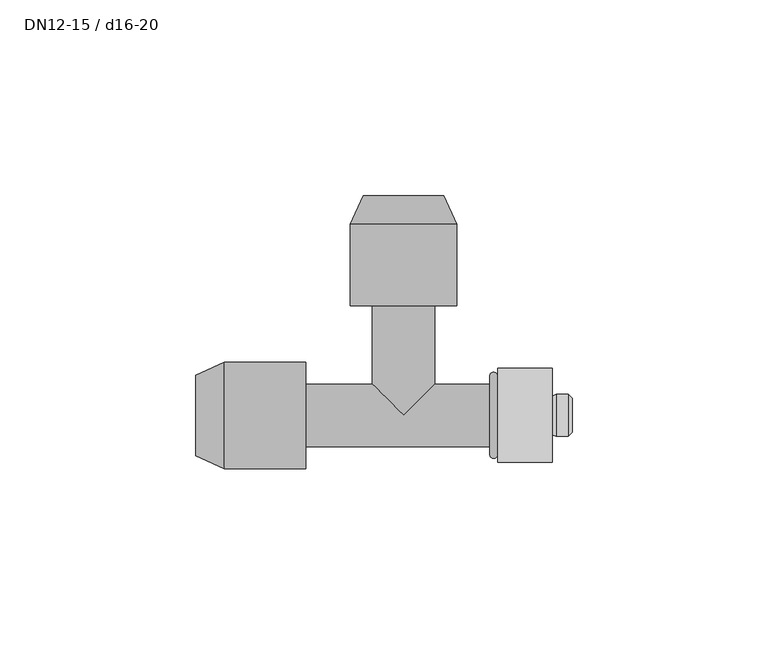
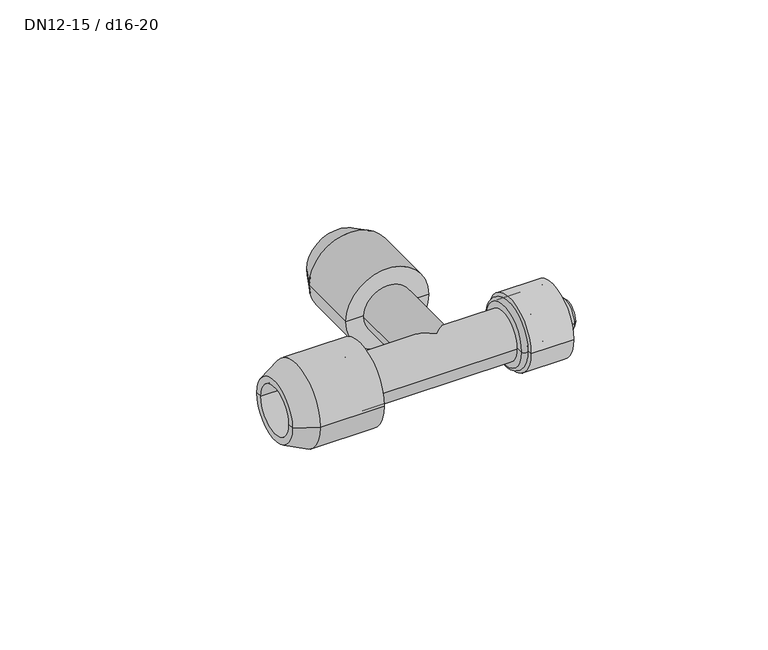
"""IFC4 building model written with IfcOpenShell, lengths in millimetres: pipe fitting geometry, NLRS_50_PIF_UN_PushFit overgangs-T-stuk met MasterFix, aftakking_geb : DN12-15 / d16-20."""

from ifc_helpers import new_model, si_unit, point, frame, origin, place, context, project, spatial, polyline, circle_curve, ellipse_curve, trimmed, source, transform, mapped, element, save
from ifc_brep_helpers import plane_surface, cylinder_surface, revolved_surface, advanced_brep


def dn12_15_d16_20_5e41d588(model_context):
    return source(origin(), model_context, "Body", "AdvancedBrep", [
        advanced_brep(
        [(-13.6, 28.0, 0.0), (13.6, 28.0, 0.0), (0.0, 28.0, 0.0), (-13.6, 48.8159018, 0.0), (13.6, 48.8159018, 0.0), (-10.25, 56.0, 0.0), (10.25, 56.0, 0.0), (-8.0, 30.0, 0.0), (8.0, 30.0, 0.0), (8.0, 56.0, 0.0), (-8.0, 56.0, 0.0), (0.0, 30.0, 0.0)],
        [
            (0, 1, circle_curve(frame((0.0, 28.0, 0.0), z_axis=(0.0, -1.0, 0.0), x_axis=(1.0000000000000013, 0.0, 0.0)), 13.6)),
            (1, 2),
            (2, 0),
            (1, 0, circle_curve(frame((0.0, 28.0, 0.0), z_axis=(0.0, -1.0, 0.0), x_axis=(1.0000000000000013, 0.0, 0.0)), 13.6)),
            (3, 4, circle_curve(frame((0.0, 48.8159018, 0.0), z_axis=(0.0, -1.0, 0.0), x_axis=(1.0000000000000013, 0.0, 0.0)), 13.6)),
            (4, 1),
            (0, 3),
            (4, 3, circle_curve(frame((0.0, 48.8159018, 0.0), z_axis=(0.0, -1.0, 0.0), x_axis=(1.0000000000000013, 0.0, 0.0)), 13.6)),
            (5, 6, circle_curve(frame((0.0, 56.0, 0.0), z_axis=(0.0, -1.0, 0.0), x_axis=(1.0000000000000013, 0.0, 0.0)), 10.25)),
            (6, 4),
            (3, 5),
            (6, 5, circle_curve(frame((0.0, 56.0, 0.0), z_axis=(0.0, -1.0, 0.0), x_axis=(1.0000000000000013, 0.0, 0.0)), 10.25)),
            (7, 8, circle_curve(frame((0.0, 30.0, 0.0), z_axis=(0.0, -1.0, 0.0), x_axis=(1.0000000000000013, 0.0, 0.0)), 8.0)),
            (8, 9),
            (9, 10, circle_curve(frame((0.0, 56.0, 0.0), z_axis=(0.0, 1.0, 0.0), x_axis=(1.0000000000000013, 0.0, 0.0)), 8.0)),
            (10, 7),
            (8, 7, circle_curve(frame((0.0, 30.0, 0.0), z_axis=(0.0, -1.0, 0.0), x_axis=(1.0000000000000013, 0.0, 0.0)), 8.0)),
            (10, 9, circle_curve(frame((0.0, 56.0, 0.0), z_axis=(0.0, 1.0, 0.0), x_axis=(1.0000000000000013, 0.0, 0.0)), 8.0)),
            (11, 8),
            (7, 11),
            (9, 6),
            (5, 10),
        ],
        [
            plane_surface(frame((0.0, 28.0, 0.0), z_axis=(0.0, -1.0, 0.0), x_axis=(1.0, 0.0, 0.0))),
            cylinder_surface(frame((0.0, 66.0, 0.0), z_axis=(0.0, 1.0000000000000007, 0.0), x_axis=(1.0000000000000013, 0.0, 0.0)), 13.6),
            revolved_surface(polyline([(13.6, 48.8159018, 0.0), (10.25, 56.0, 0.0)]), (0.0, 66.0, 0.0), (0.0, 1.0000000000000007, 0.0)),
            revolved_surface(polyline([(8.00000000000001, 55.999999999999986, 0.0), (8.00000000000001, 29.999999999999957, 0.0)]), (0.0, 66.0, 0.0), (0.0, 1.0000000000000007, 0.0)),
            plane_surface(frame((0.0, 30.0, 0.0), z_axis=(0.0, 1.0, 0.0), x_axis=(1.0, 0.0, 0.0))),
            plane_surface(frame((0.0, 56.0, 0.0), z_axis=(0.0, 1.0, 0.0), x_axis=(1.0, 0.0, 0.0))),
        ],
        [
            (0, [[1, 2, 3]]),
            (0, [[4, -3, -2]]),
            (1, [[5, 6, -1, 7]]),
            (1, [[8, -7, -4, -6]]),
            (2, [[9, 10, -5, 11]]),
            (2, [[12, -11, -8, -10]]),
            (3, [[13, 14, 15, 16]]),
            (3, [[17, -16, 18, -14]]),
            (4, [[19, -13, 20]]),
            (4, [[-20, -17, -19]]),
            (5, [[-15, 21, -9, 22]]),
            (5, [[-18, -22, -12, -21]]),
        ],
    ),
        advanced_brep(
        [(-25.0, -13.6, 0.0), (-25.0, 13.6, 0.0), (-25.0, 0.0, 0.0), (-45.8159018, -13.6, 0.0), (-45.8159018, 13.6, 0.0), (-53.0, -10.25, 0.0), (-53.0, 10.25, 0.0), (-27.0, -8.0, 0.0), (-27.0, 8.0, 0.0), (-53.0, 8.0, 0.0), (-53.0, -8.0, 0.0), (-27.0, 0.0, 0.0)],
        [
            (0, 1, circle_curve(frame((-25.0, 0.0, 0.0), z_axis=(1.0, 0.0, 0.0), x_axis=(0.0, 1.0, 0.0)), 13.6)),
            (1, 2),
            (2, 0),
            (1, 0, circle_curve(frame((-25.0, 0.0, 0.0), z_axis=(1.0, 0.0, 0.0), x_axis=(0.0, 1.0, 0.0)), 13.6)),
            (3, 4, circle_curve(frame((-45.8159018, 0.0, 0.0), z_axis=(1.0, 0.0, 0.0), x_axis=(0.0, 1.0, 0.0)), 13.6)),
            (4, 1),
            (0, 3),
            (4, 3, circle_curve(frame((-45.8159018, 0.0, 0.0), z_axis=(1.0, 0.0, 0.0), x_axis=(0.0, 1.0, 0.0)), 13.6)),
            (5, 6, circle_curve(frame((-53.0, 0.0, 0.0), z_axis=(1.0, 0.0, 0.0), x_axis=(0.0, 1.0, 0.0)), 10.25)),
            (6, 4),
            (3, 5),
            (6, 5, circle_curve(frame((-53.0, 0.0, 0.0), z_axis=(1.0, 0.0, 0.0), x_axis=(0.0, 1.0, 0.0)), 10.25)),
            (7, 8, circle_curve(frame((-27.0, 0.0, 0.0), z_axis=(1.0, 0.0, 0.0), x_axis=(0.0, 1.0, 0.0)), 8.0)),
            (8, 9),
            (9, 10, circle_curve(frame((-53.0, 0.0, 0.0), z_axis=(-1.0, 0.0, 0.0), x_axis=(0.0, 1.0, 0.0)), 8.0)),
            (10, 7),
            (8, 7, circle_curve(frame((-27.0, 0.0, 0.0), z_axis=(1.0, 0.0, 0.0), x_axis=(0.0, 1.0, 0.0)), 8.0)),
            (10, 9, circle_curve(frame((-53.0, 0.0, 0.0), z_axis=(-1.0, 0.0, 0.0), x_axis=(0.0, 1.0, 0.0)), 8.0)),
            (11, 8),
            (7, 11),
            (9, 6),
            (5, 10),
        ],
        [
            plane_surface(frame((-25.0, 0.0, 0.0), z_axis=(1.0, 0.0, 0.0), x_axis=(0.0, 1.0, 0.0))),
            cylinder_surface(frame((-63.0, 0.0, 0.0), z_axis=(-1.0, 0.0, 0.0), x_axis=(0.0, 1.0, 0.0)), 13.6),
            revolved_surface(polyline([(-45.8159018, 13.6, 0.0), (-53.0, 10.25, 0.0)]), (-63.0, 0.0, 0.0), (-1.0, 0.0, 0.0)),
            revolved_surface(polyline([(-53.0, 8.0, 0.0), (-27.0, 8.0, 0.0)]), (-63.0, 0.0, 0.0), (-1.0, 0.0, 0.0)),
            plane_surface(frame((-27.0, 0.0, 0.0), z_axis=(-1.0, 0.0, 0.0), x_axis=(0.0, 1.0, 0.0))),
            plane_surface(frame((-53.0, 0.0, 0.0), z_axis=(-1.0, 0.0, 0.0), x_axis=(0.0, 1.0, 0.0))),
        ],
        [
            (0, [[1, 2, 3]]),
            (0, [[4, -3, -2]]),
            (1, [[5, 6, -1, 7]]),
            (1, [[8, -7, -4, -6]]),
            (2, [[9, 10, -5, 11]]),
            (2, [[12, -11, -8, -10]]),
            (3, [[13, 14, 15, 16]]),
            (3, [[17, -16, 18, -14]]),
            (4, [[19, -13, 20]]),
            (4, [[-20, -17, -19]]),
            (5, [[-15, 21, -9, 22]]),
            (5, [[-18, -22, -12, -21]]),
        ],
    ),
        advanced_brep(
        [(43.0, 0.0, 0.0), (43.0, -4.35, 0.0), (43.0, 4.35, 0.0), (22.0, 10.0, 0.0), (22.0, -10.0, 0.0), (22.0, 0.0, 0.0), (24.0, 10.0, 0.0), (24.0, -10.0, 0.0), (24.0, 5.35, 0.0), (24.0, -5.35, 0.0), (27.881966, 5.35, 0.0), (27.881966, -5.35, 0.0), (30.118034, 5.35, 0.0), (30.118034, -5.35, 0.0), (32.9414451, 5.35, 0.0), (32.9414451, -5.35, 0.0), (38.9892433, 5.35, 0.0), (38.9892433, -5.35, 0.0), (42.0, 5.35, 0.0), (42.0, -5.35, 0.0)],
        [
            (0, 1),
            (1, 2, circle_curve(frame((43.0, 0.0, 0.0), z_axis=(1.0, 0.0, 0.0), x_axis=(0.0, -1.0000000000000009, 0.0)), 4.35)),
            (2, 0),
            (2, 1, circle_curve(frame((43.0, 0.0, 0.0), z_axis=(1.0, 0.0, 0.0), x_axis=(0.0, -1.0000000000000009, 0.0)), 4.35)),
            (3, 4, circle_curve(frame((22.0, 0.0, 0.0), z_axis=(-1.0, 0.0, 0.0), x_axis=(0.0, -1.0000000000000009, 0.0)), 10.0)),
            (4, 5),
            (5, 3),
            (4, 3, circle_curve(frame((22.0, 0.0, 0.0), z_axis=(-1.0, 0.0, 0.0), x_axis=(0.0, -1.0000000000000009, 0.0)), 10.0)),
            (6, 7, circle_curve(frame((24.0, 0.0, 0.0), z_axis=(-1.0, 0.0, 0.0), x_axis=(0.0, -1.0000000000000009, 0.0)), 10.0)),
            (7, 4, circle_curve(frame((23.0, -10.0, 0.0), z_axis=(0.0, 0.0, -1.0000000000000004), x_axis=(-1.0000000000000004, 0.0, 0.0)), 1.0)),
            (3, 6, circle_curve(frame((23.0, 10.0, 0.0), z_axis=(0.0, 0.0, -1.0000000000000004), x_axis=(-1.0000000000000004, 0.0, 0.0)), 1.0)),
            (7, 6, circle_curve(frame((24.0, 0.0, 0.0), z_axis=(-1.0, 0.0, 0.0), x_axis=(0.0, -1.0000000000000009, 0.0)), 10.0)),
            (8, 9, circle_curve(frame((24.0, 0.0, 0.0), z_axis=(-1.0, 0.0, 0.0), x_axis=(0.0, -1.0000000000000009, 0.0)), 5.35)),
            (9, 7),
            (6, 8),
            (9, 8, circle_curve(frame((24.0, 0.0, 0.0), z_axis=(-1.0, 0.0, 0.0), x_axis=(0.0, -1.0000000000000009, 0.0)), 5.35)),
            (10, 11, circle_curve(frame((27.881966, 0.0, 0.0), z_axis=(-1.0, 0.0, 0.0), x_axis=(0.0, -1.0000000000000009, 0.0)), 5.35)),
            (11, 9),
            (8, 10),
            (11, 10, circle_curve(frame((27.881966, 0.0, 0.0), z_axis=(-1.0, 0.0, 0.0), x_axis=(0.0, -1.0000000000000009, 0.0)), 5.35)),
            (12, 13, circle_curve(frame((30.118034, 0.0, 0.0), z_axis=(-1.0, 0.0, 0.0), x_axis=(0.0, -1.0000000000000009, 0.0)), 5.35)),
            (13, 11, circle_curve(frame((29.0, -4.8389209, 0.0), z_axis=(0.0, 0.0, -1.0000000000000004), x_axis=(-1.0000000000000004, 0.0, 0.0)), 1.2293095)),
            (10, 12, circle_curve(frame((29.0, 4.8389209, 0.0), z_axis=(0.0, 0.0, -1.0000000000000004), x_axis=(-1.0000000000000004, 0.0, 0.0)), 1.2293095)),
            (13, 12, circle_curve(frame((30.118034, 0.0, 0.0), z_axis=(-1.0, 0.0, 0.0), x_axis=(0.0, -1.0000000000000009, 0.0)), 5.35)),
            (14, 15, circle_curve(frame((32.9414451, 0.0, 0.0), z_axis=(-1.0, 0.0, 0.0), x_axis=(0.0, -1.0000000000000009, 0.0)), 5.35)),
            (15, 13),
            (12, 14),
            (15, 14, circle_curve(frame((32.9414451, 0.0, 0.0), z_axis=(-1.0, 0.0, 0.0), x_axis=(0.0, -1.0000000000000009, 0.0)), 5.35)),
            (16, 17, circle_curve(frame((38.9892433, 0.0, 0.0), z_axis=(-1.0, 0.0, 0.0), x_axis=(0.0, -1.0000000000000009, 0.0)), 5.35)),
            (17, 15, circle_curve(frame((35.9653442, -11.7319636, 0.0), z_axis=(0.0, 0.0, 1.0000000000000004), x_axis=(-1.0000000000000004, 0.0, 0.0)), 7.062112)),
            (14, 16, circle_curve(frame((35.9653442, 11.7319636, 0.0), z_axis=(0.0, 0.0, 1.0000000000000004), x_axis=(-1.0000000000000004, 0.0, 0.0)), 7.062112)),
            (17, 16, circle_curve(frame((38.9892433, 0.0, 0.0), z_axis=(-1.0, 0.0, 0.0), x_axis=(0.0, -1.0000000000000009, 0.0)), 5.35)),
            (18, 19, circle_curve(frame((42.0, 0.0, 0.0), z_axis=(-1.0, 0.0, 0.0), x_axis=(0.0, -1.0000000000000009, 0.0)), 5.35)),
            (19, 17),
            (16, 18),
            (19, 18, circle_curve(frame((42.0, 0.0, 0.0), z_axis=(-1.0, 0.0, 0.0), x_axis=(0.0, -1.0000000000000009, 0.0)), 5.35)),
            (1, 19),
            (18, 2),
        ],
        [
            plane_surface(frame((43.0, 0.0, 0.0), z_axis=(1.0, 0.0, 0.0), x_axis=(0.0, -1.0, 0.0))),
            plane_surface(frame((22.0, 0.0, 0.0), z_axis=(-1.0, 0.0, 0.0), x_axis=(0.0, -1.0, 0.0))),
            revolved_surface(trimmed(ellipse_curve(frame((23.0, -10.0, 0.0), z_axis=(0.0, 0.0, 1.0000000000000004), x_axis=(-1.0000000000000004, 0.0, 0.0)), 1.0, 1.0), [point((22.0, -10.0, 0.0))], [point((24.0, -10.0, 0.0))], True, "CARTESIAN"), (51.045876, 0.0, 0.0), (1.0000000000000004, 0.0, 0.0)),
            plane_surface(frame((24.0, 0.0, 0.0), z_axis=(1.0, 0.0, 0.0), x_axis=(0.0, -1.0, 0.0))),
            cylinder_surface(frame((51.045876, 0.0, 0.0), z_axis=(1.0000000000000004, 0.0, 0.0), x_axis=(0.0, -1.0000000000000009, 0.0)), 5.35),
            revolved_surface(trimmed(ellipse_curve(frame((29.0, -4.8389209, 0.0), z_axis=(0.0, 0.0, 1.0000000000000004), x_axis=(-1.0000000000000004, 0.0, 0.0)), 1.2293095, 1.2293095), [point((27.881966, -5.35, 0.0))], [point((30.118034, -5.35, 0.0))], True, "CARTESIAN"), (51.045876, 0.0, 0.0), (1.0000000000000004, 0.0, 0.0)),
            revolved_surface(trimmed(ellipse_curve(frame((35.9653442, -11.7319636, 0.0), z_axis=(0.0, 0.0, -1.0000000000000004), x_axis=(-1.0000000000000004, 0.0, 0.0)), 7.062112, 7.062112), [point((32.9414451, -5.35, 0.0))], [point((38.9892433, -5.35, 0.0))], True, "CARTESIAN"), (51.045876, 0.0, 0.0), (1.0000000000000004, 0.0, 0.0)),
            revolved_surface(polyline([(42.0, -5.35, 0.0), (43.0, -4.35, 0.0)]), (51.045876, 0.0, 0.0), (1.0000000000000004, 0.0, 0.0)),
        ],
        [
            (0, [[1, 2, 3]]),
            (0, [[-3, 4, -1]]),
            (1, [[5, 6, 7]]),
            (1, [[8, -7, -6]]),
            (2, [[9, 10, -5, 11]]),
            (2, [[12, -11, -8, -10]]),
            (3, [[13, 14, -9, 15]]),
            (3, [[16, -15, -12, -14]]),
            (4, [[17, 18, -13, 19]]),
            (4, [[20, -19, -16, -18]]),
            (5, [[21, 22, -17, 23]]),
            (5, [[24, -23, -20, -22]]),
            (4, [[25, 26, -21, 27]]),
            (4, [[28, -27, -24, -26]]),
            (6, [[29, 30, -25, 31]]),
            (6, [[32, -31, -28, -30]]),
            (4, [[33, 34, -29, 35]]),
            (4, [[36, -35, -32, -34]]),
            (7, [[-2, 37, -33, 38]]),
            (7, [[-4, -38, -36, -37]]),
        ],
    ),
        advanced_brep(
        [(24.0, 10.0, 0.0), (24.0, -10.0, 0.0), (38.0, -10.0, 0.0), (38.0, 10.0, 0.0), (24.0, 12.0, 0.0), (24.0, -12.0, 0.0), (38.0, 12.0, 0.0), (38.0, -12.0, 0.0)],
        [
            (0, 1, circle_curve(frame((24.0, 0.0, 0.0), z_axis=(-1.0, 0.0, 0.0), x_axis=(0.0, -1.0000000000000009, 0.0)), 10.0)),
            (1, 2),
            (2, 3, circle_curve(frame((38.0, 0.0, 0.0), z_axis=(1.0, 0.0, 0.0), x_axis=(0.0, -1.0000000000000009, 0.0)), 10.0)),
            (3, 0),
            (1, 0, circle_curve(frame((24.0, 0.0, 0.0), z_axis=(-1.0, 0.0, 0.0), x_axis=(0.0, -1.0000000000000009, 0.0)), 10.0)),
            (3, 2, circle_curve(frame((38.0, 0.0, 0.0), z_axis=(1.0, 0.0, 0.0), x_axis=(0.0, -1.0000000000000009, 0.0)), 10.0)),
            (4, 5, circle_curve(frame((24.0, 0.0, 0.0), z_axis=(-1.0, 0.0, 0.0), x_axis=(0.0, -1.0000000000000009, 0.0)), 12.0)),
            (5, 1),
            (0, 4),
            (5, 4, circle_curve(frame((24.0, 0.0, 0.0), z_axis=(-1.0, 0.0, 0.0), x_axis=(0.0, -1.0000000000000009, 0.0)), 12.0)),
            (6, 7, circle_curve(frame((38.0, 0.0, 0.0), z_axis=(-1.0, 0.0, 0.0), x_axis=(0.0, -1.0000000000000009, 0.0)), 12.0)),
            (7, 5),
            (4, 6),
            (7, 6, circle_curve(frame((38.0, 0.0, 0.0), z_axis=(-1.0, 0.0, 0.0), x_axis=(0.0, -1.0000000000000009, 0.0)), 12.0)),
            (2, 7),
            (6, 3),
        ],
        [
            revolved_surface(polyline([(37.99999999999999, -10.000000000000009, 0.0), (23.99999999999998, -10.000000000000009, 0.0)]), (48.0, 0.0, 0.0), (1.0000000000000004, 0.0, 0.0)),
            plane_surface(frame((24.0, 0.0, 0.0), z_axis=(-1.0, 0.0, 0.0), x_axis=(0.0, -1.0, 0.0))),
            cylinder_surface(frame((48.0, 0.0, 0.0), z_axis=(1.0000000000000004, 0.0, 0.0), x_axis=(0.0, -1.0000000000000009, 0.0)), 12.0),
            plane_surface(frame((38.0, 0.0, 0.0), z_axis=(1.0, 0.0, 0.0), x_axis=(0.0, -1.0, 0.0))),
        ],
        [
            (0, [[1, 2, 3, 4]]),
            (0, [[5, -4, 6, -2]]),
            (1, [[7, 8, -1, 9]]),
            (1, [[10, -9, -5, -8]]),
            (2, [[11, 12, -7, 13]]),
            (2, [[14, -13, -10, -12]]),
            (3, [[-3, 15, -11, 16]]),
            (3, [[-6, -16, -14, -15]]),
        ],
    ),
        advanced_brep(
        [(-30.0, -8.0, 0.0), (-30.0, 8.0, 0.0), (22.0, -8.0, 0.0), (22.0, 8.0, 0.0), (8.0, 8.0, 0.0), (0.0, 0.0, 8.0), (-8.0, 8.0, 0.0), (0.0, 0.0, -8.0), (-8.0, 30.0, 0.0), (8.0, 30.0, 0.0)],
        [
            (0, 1, circle_curve(frame((-30.0, 0.0, 0.0), z_axis=(-1.0, 0.0, 0.0), x_axis=(0.0, 1.0, 0.0)), 8.0)),
            (1, 0, circle_curve(frame((-30.0, 0.0, 0.0), z_axis=(-1.0, 0.0, 0.0), x_axis=(0.0, 1.0, 0.0)), 8.0)),
            (2, 3, circle_curve(frame((22.0, 0.0, 0.0), z_axis=(1.0, 0.0, 0.0), x_axis=(0.0, 1.0, 0.0)), 8.0)),
            (3, 2, circle_curve(frame((22.0, 0.0, 0.0), z_axis=(1.0, 0.0, 0.0), x_axis=(0.0, 1.0, 0.0)), 8.0)),
            (0, 2),
            (3, 4),
            (4, 5, ellipse_curve(frame((0.0, 0.0, 0.0), z_axis=(0.7071067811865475, -0.7071067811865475, 0.0), x_axis=(-0.7071067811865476, -0.7071067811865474, 0.0)), 11.3137085, 8.0)),
            (5, 6, ellipse_curve(frame((0.0, 0.0, 0.0), z_axis=(-0.7071067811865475, -0.7071067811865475, 0.0), x_axis=(-0.7071067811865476, 0.7071067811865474, 0.0)), 11.3137085, 8.0)),
            (6, 1),
            (6, 7, ellipse_curve(frame((0.0, 0.0, 0.0), z_axis=(-0.7071067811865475, -0.7071067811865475, 0.0), x_axis=(-0.7071067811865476, 0.7071067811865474, 0.0)), 11.3137085, 8.0)),
            (7, 4, ellipse_curve(frame((0.0, 0.0, 0.0), z_axis=(0.7071067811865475, -0.7071067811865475, 0.0), x_axis=(-0.7071067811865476, -0.7071067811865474, 0.0)), 11.3137085, 8.0)),
            (8, 9, circle_curve(frame((0.0, 30.0, 0.0), z_axis=(0.0, 1.0, 0.0), x_axis=(1.0, 0.0, 0.0)), 8.0)),
            (9, 8, circle_curve(frame((0.0, 30.0, 0.0), z_axis=(0.0, 1.0, 0.0), x_axis=(1.0, 0.0, 0.0)), 8.0)),
            (8, 6),
            (4, 9),
        ],
        [
            plane_surface(frame((-30.0, 0.0, 0.0), z_axis=(-1.0, 0.0, 0.0), x_axis=(0.0, 0.0, 1.0))),
            plane_surface(frame((22.0, 0.0, 0.0), z_axis=(1.0, 0.0, 0.0), x_axis=(0.0, 0.0, 1.0))),
            cylinder_surface(frame((-30.0, 0.0, 0.0), z_axis=(-1.0, 0.0, 0.0), x_axis=(0.0, 1.0, 0.0)), 8.0),
            plane_surface(frame((0.0, 30.0, 0.0), z_axis=(0.0, 1.0, 0.0), x_axis=(0.0, 0.0, 1.0))),
            cylinder_surface(frame((0.0, 30.0, 0.0), z_axis=(0.0, 1.0, 0.0), x_axis=(1.0, 0.0, 0.0)), 8.0),
        ],
        [
            (0, [[1, 2]]),
            (1, [[3, 4]]),
            (2, [[-1, 5, -4, 6, 7, 8, 9]]),
            (2, [[-2, -9, 10, 11, -6, -3, -5]]),
            (3, [[12, 13]]),
            (4, [[-12, 14, -8, -7, 15]]),
            (4, [[-13, -15, -11, -10, -14]]),
        ],
    ),
    ])


if __name__ == "__main__":
    model = new_model("IFC4")
    model_context = context("Model", 3, world=origin())
    ifc_project = project(units=[si_unit("LENGTHUNIT", "METRE", prefix="MILLI")], contexts=[model_context])
    site = spatial("IfcSite", under=ifc_project)
    building = spatial("IfcBuilding", under=site)
    placement = place(None, origin())
    dn12_15_d16_20_shape = dn12_15_d16_20_5e41d588(model_context)
    element("IfcPipeFitting", 1, ObjectType="NLRS_50_PIF_UN_PushFit overgangs-T-stuk met MasterFix, aftakking_geb : DN12-15 / d16-20", at=placement, inside=building, context=model_context, shape_type="MappedRepresentation", body=[
        mapped(dn12_15_d16_20_shape, transform((0.0, 0.0, 0.0), x_axis=(1.0, 0.0, 0.0), y_axis=(0.0, 1.0, 0.0), z_axis=(0.0, 0.0, 1.0))),
    ])
    save(model, "model.ifc")
